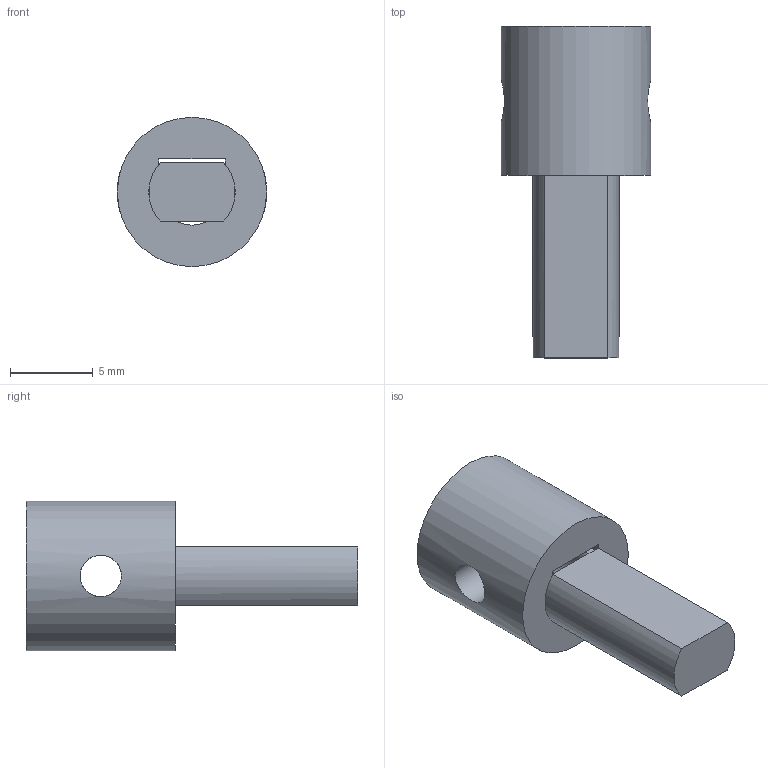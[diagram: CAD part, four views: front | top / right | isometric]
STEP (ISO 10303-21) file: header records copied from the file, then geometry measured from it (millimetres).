
FILE_DESCRIPTION(('Open CASCADE Model'),'2;1');
FILE_NAME('Open CASCADE Shape Model','2026-07-25T17:42:39',('Author'),( 'Open CASCADE'),'Open CASCADE STEP processor 7.9','build123d', 'Unknown');
FILE_SCHEMA(('AUTOMOTIVE_DESIGN { 1 0 10303 214 1 1 1 1 }'));
Length unit declared in the file: millimetre
Products named in the file (2): =>[0:1:1:2]; COMPOUND
Assembly tree (1 placements, depth 2):
  =>[0:1:1:2]
    COMPOUND
Bounding box: 9 x 20 x 9 mm (x, y, z)
Volume: 607.2 mm3; surface area: 710.6 mm2
Topology: 1 solids, 1 shells, 17 faces, 50 edges, 32 vertices
Faces by surface type: plane 11, cylinder 6
Full cylindrical faces by diameter (mm): 2.5 x2, 9 x1
Entity records: 2224 total; most frequent: CARTESIAN_POINT 1267, DIRECTION 152, ORIENTED_EDGE 100, PCURVE 100, DEFINITIONAL_REPRESENTATION 100, LINE 82, VECTOR 82, EDGE_CURVE 50
